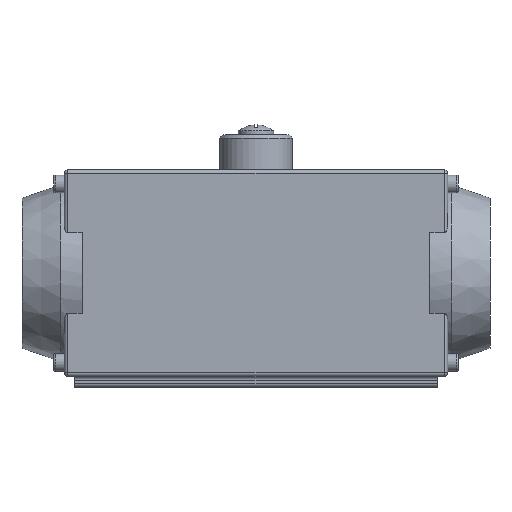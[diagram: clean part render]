
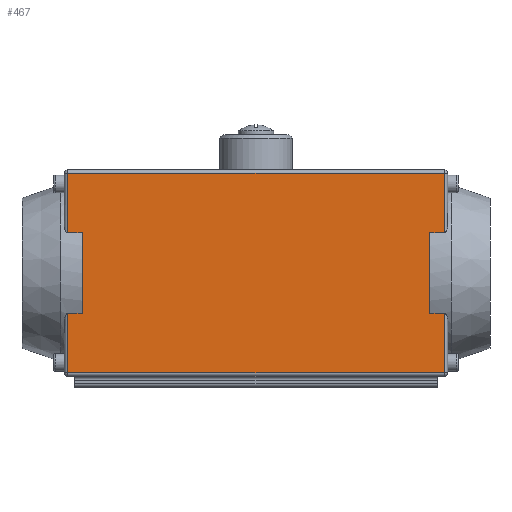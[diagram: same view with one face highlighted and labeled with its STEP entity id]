
A CAD part, left-side view. The second image highlights one B-rep face of the part: STEP entity #467.
In plain terms, the highlighted planar face has unit normal (-1, 0, 0).
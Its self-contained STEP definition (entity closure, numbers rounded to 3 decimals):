
#467=ADVANCED_FACE('',(#3538),#3540,.F.);
#3538=FACE_BOUND('',#3539,.T.);
#3539=EDGE_LOOP('',(#7083,#7084,#7085,#7086,#7087,#7088,#7089,#7090,#7091,#7092,
#7093,#7094));
#3540=PLANE('',#3541);
#3541=AXIS2_PLACEMENT_3D('',#3542,#3543,#3544);
#3542=CARTESIAN_POINT('',(2497.405,2720.712,937.232));
#3543=DIRECTION('',(1.,0.,0.));
#3544=DIRECTION('',(0.,0.,-1.));
#7083=ORIENTED_EDGE('',*,*,#9193,.F.);
#7084=ORIENTED_EDGE('',*,*,#9195,.F.);
#7085=ORIENTED_EDGE('',*,*,#9196,.F.);
#7086=ORIENTED_EDGE('',*,*,#9175,.F.);
#7087=ORIENTED_EDGE('',*,*,#9197,.F.);
#7088=ORIENTED_EDGE('',*,*,#9173,.F.);
#7089=ORIENTED_EDGE('',*,*,#9198,.F.);
#7090=ORIENTED_EDGE('',*,*,#9199,.F.);
#7091=ORIENTED_EDGE('',*,*,#9200,.F.);
#7092=ORIENTED_EDGE('',*,*,#9141,.F.);
#7093=ORIENTED_EDGE('',*,*,#9201,.F.);
#7094=ORIENTED_EDGE('',*,*,#9139,.F.);
#9139=EDGE_CURVE('',#10468,#10470,#10471,.T.);
#9141=EDGE_CURVE('',#10472,#10474,#10475,.T.);
#9173=EDGE_CURVE('',#10529,#10531,#10532,.T.);
#9175=EDGE_CURVE('',#10533,#10535,#10536,.T.);
#9193=EDGE_CURVE('',#10565,#10468,#10567,.T.);
#9195=EDGE_CURVE('',#10569,#10565,#10570,.T.);
#9196=EDGE_CURVE('',#10535,#10569,#10571,.T.);
#9197=EDGE_CURVE('',#10531,#10533,#10572,.T.);
#9198=EDGE_CURVE('',#10573,#10529,#10574,.T.);
#9199=EDGE_CURVE('',#10575,#10573,#10576,.T.);
#9200=EDGE_CURVE('',#10474,#10575,#10577,.T.);
#9201=EDGE_CURVE('',#10470,#10472,#10578,.T.);
#10468=VERTEX_POINT('',#12952);
#10470=VERTEX_POINT('',#13027);
#10471=LINE('',#13028,#13029);
#10472=VERTEX_POINT('',#13031);
#10474=VERTEX_POINT('',#13036);
#10475=LINE('',#13037,#13038);
#10529=VERTEX_POINT('',#13295);
#10531=VERTEX_POINT('',#13370);
#10532=LINE('',#13371,#13372);
#10533=VERTEX_POINT('',#13374);
#10535=VERTEX_POINT('',#13379);
#10536=LINE('',#13380,#13381);
#10565=VERTEX_POINT('',#13596);
#10567=LINE('',#13601,#13602);
#10569=VERTEX_POINT('',#13607);
#10570=LINE('',#13608,#13609);
#10571=LINE('',#13611,#13612);
#10572=LINE('',#13614,#13615);
#10573=VERTEX_POINT('',#13617);
#10574=LINE('',#13618,#13619);
#10575=VERTEX_POINT('',#13621);
#10576=LINE('',#13622,#13623);
#10577=LINE('',#13625,#13626);
#10578=LINE('',#13628,#13629);
#12952=CARTESIAN_POINT('',(2497.405,2827.212,855.934));
#13027=CARTESIAN_POINT('',(2497.405,2819.212,855.934));
#13028=CARTESIAN_POINT('',(2497.405,2827.212,855.934));
#13029=VECTOR('',#13030,1.);
#13030=DIRECTION('',(0.,-1.,0.));
#13031=CARTESIAN_POINT('',(2497.405,2819.212,901.53));
#13036=CARTESIAN_POINT('',(2497.405,2827.212,901.53));
#13037=CARTESIAN_POINT('',(2497.405,2819.212,901.53));
#13038=VECTOR('',#13039,1.);
#13039=DIRECTION('',(0.,1.,0.));
#13295=CARTESIAN_POINT('',(2497.405,2614.212,901.53));
#13370=CARTESIAN_POINT('',(2497.405,2622.212,901.53));
#13371=CARTESIAN_POINT('',(2497.405,2614.212,901.53));
#13372=VECTOR('',#13373,1.);
#13373=DIRECTION('',(0.,1.,0.));
#13374=CARTESIAN_POINT('',(2497.405,2622.212,855.934));
#13379=CARTESIAN_POINT('',(2497.405,2614.212,855.934));
#13380=CARTESIAN_POINT('',(2497.405,2622.212,855.934));
#13381=VECTOR('',#13382,1.);
#13382=DIRECTION('',(0.,-1.,0.));
#13596=CARTESIAN_POINT('',(2497.405,2827.212,822.232));
#13601=CARTESIAN_POINT('',(2497.405,2827.212,822.232));
#13602=VECTOR('',#13603,1.);
#13603=DIRECTION('',(0.,0.,1.));
#13607=CARTESIAN_POINT('',(2497.405,2614.212,822.232));
#13608=CARTESIAN_POINT('',(2497.405,2614.212,822.232));
#13609=VECTOR('',#13610,1.);
#13610=DIRECTION('',(0.,1.,0.));
#13611=CARTESIAN_POINT('',(2497.405,2614.212,855.934));
#13612=VECTOR('',#13613,1.);
#13613=DIRECTION('',(0.,0.,-1.));
#13614=CARTESIAN_POINT('',(2497.405,2622.212,901.53));
#13615=VECTOR('',#13616,1.);
#13616=DIRECTION('',(0.,0.,-1.));
#13617=CARTESIAN_POINT('',(2497.405,2614.212,935.232));
#13618=CARTESIAN_POINT('',(2497.405,2614.212,935.232));
#13619=VECTOR('',#13620,1.);
#13620=DIRECTION('',(0.,0.,-1.));
#13621=CARTESIAN_POINT('',(2497.405,2827.212,935.232));
#13622=CARTESIAN_POINT('',(2497.405,2827.212,935.232));
#13623=VECTOR('',#13624,1.);
#13624=DIRECTION('',(0.,-1.,0.));
#13625=CARTESIAN_POINT('',(2497.405,2827.212,901.53));
#13626=VECTOR('',#13627,1.);
#13627=DIRECTION('',(0.,0.,1.));
#13628=CARTESIAN_POINT('',(2497.405,2819.212,855.934));
#13629=VECTOR('',#13630,1.);
#13630=DIRECTION('',(0.,0.,1.));
